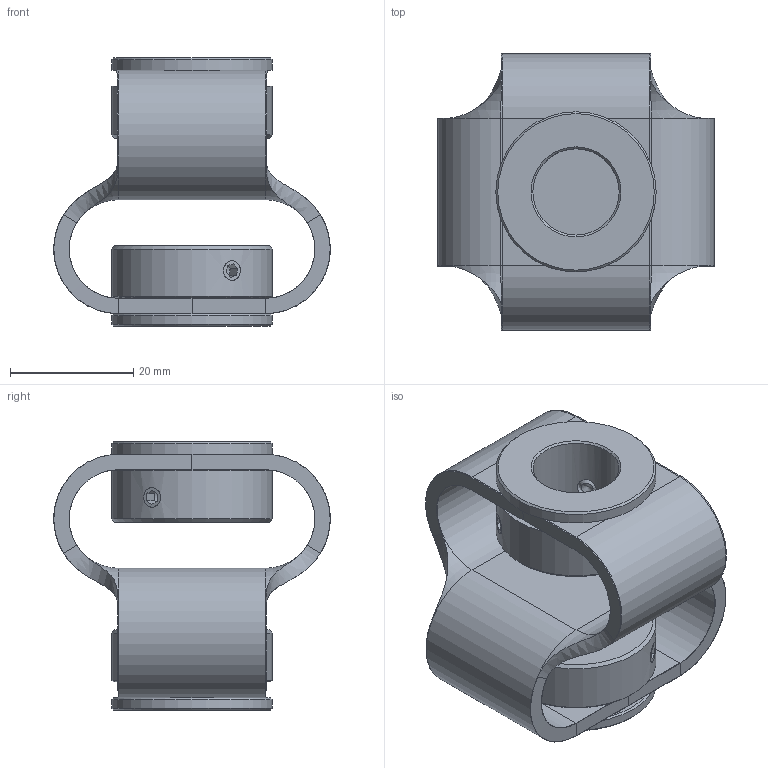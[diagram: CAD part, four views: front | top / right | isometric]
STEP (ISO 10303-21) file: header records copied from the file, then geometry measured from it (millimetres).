
FILE_DESCRIPTION(/* description */ ('Stern '),/* implementation_level */ '2;1');
FILE_NAME(/* name */ 'Z:\ABP-Antriebstechnik\Entwicklung-3D\Paguflex\DKPSF\DKPSF4848 12 14.stp',/* time_stamp */ '2024-03-11T14:52:57+01:00',/* author */ ('christian.fehrenbach'),/* organization */ (''),/* preprocessor_version */ 'ST-DEVELOPER v16.1',/* originating_system */ 'Autodesk Inventor 2016',/* authorisation */ '');
FILE_SCHEMA (('AUTOMOTIVE_DESIGN { 1 0 10303 214 3 1 1 }'));
Length unit declared in the file: millimetre
Products named in the file (5): Stern 4848 gebogen; Schraubnabe 2513 12; Schraubnabe 2513 14; M4-6; DKPSF4848 12 14
Assembly tree (7 placements, depth 2):
  DKPSF4848 12 14
    Stern 4848 gebogen
    Schraubnabe 2513 12
    Schraubnabe 2513 14
    M4-6  x4
Bounding box: 44.87 x 44.87 x 43.5 mm (x, y, z)
Volume: 19049 mm3; surface area: 15681.8 mm2
Topology: 7 solids, 11 shells, 172 faces, 364 edges, 204 vertices
Faces by surface type: plane 84, cylinder 46, cone 30, torus 8, bspline 4
Full cylindrical faces by diameter (mm): 3.242 x4, 4 x4, 12 x1, 14 x1, 16.5 x2, 18 x2, 26 x4
Entity records: 3594 total; most frequent: CARTESIAN_POINT 994, DIRECTION 554, ORIENTED_EDGE 460, AXIS2_PLACEMENT_3D 230, EDGE_CURVE 218, EDGE_LOOP 164, VERTEX_POINT 138, FACE_OUTER_BOUND 118
